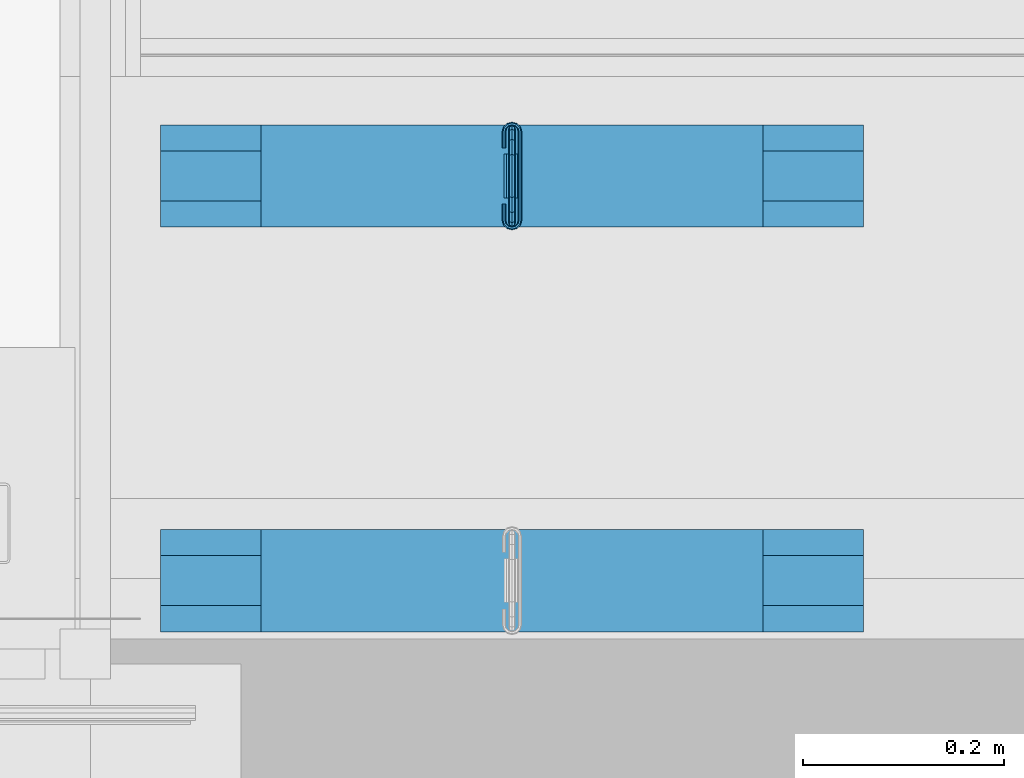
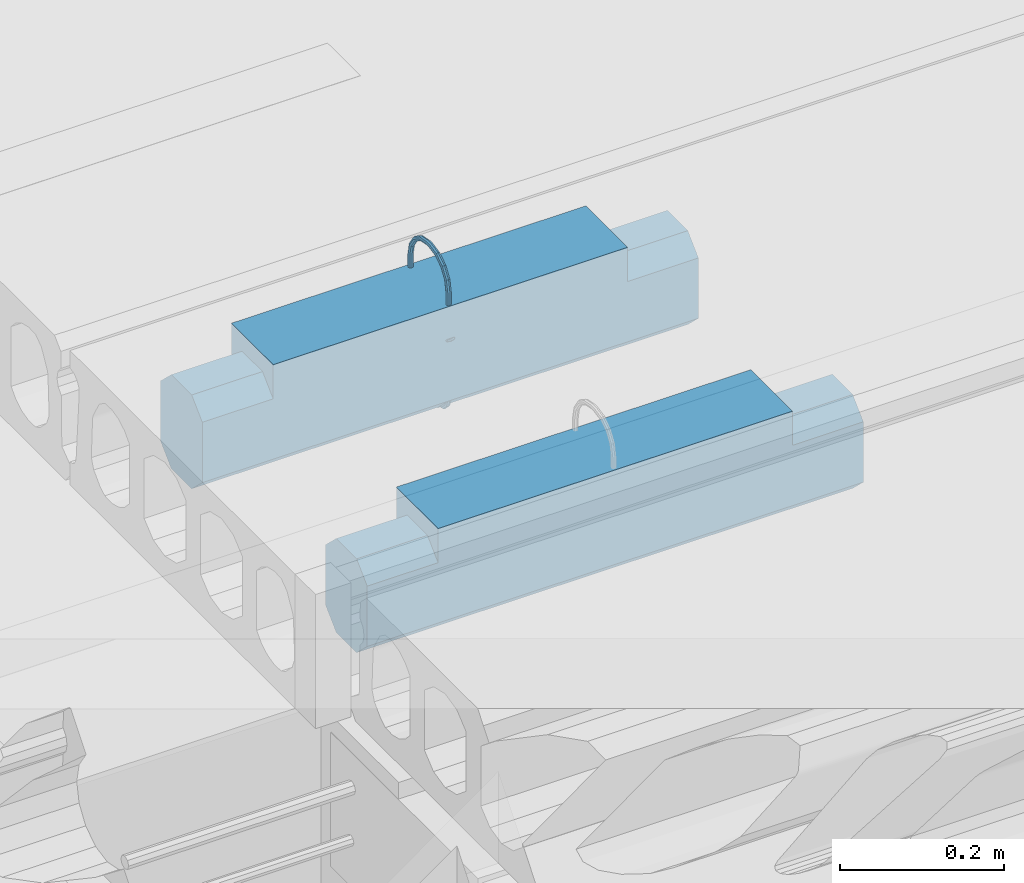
# One storey, part 176 of 230: 3 beams.
"""IFC4X3_ADD2 building model written with IfcOpenShell, lengths in millimetres."""

from ifc_helpers import new_model, si_unit, direction, origin_with_axes, place, context, subcontext, project, spatial, triangles, polygons, element, save


model = new_model("IFC4X3_ADD2")

# Units and contexts
model_context = context("Model", 3, precision=1e-05, world=origin_with_axes(), true_north=direction((0.0, 1.0)))
body_context = subcontext(model_context, "Body", "Model", "MODEL_VIEW")
ifc_project = project(units=[si_unit("LENGTHUNIT", "METRE", prefix="MILLI"), si_unit("AREAUNIT", "SQUARE_METRE"), si_unit("VOLUMEUNIT", "CUBIC_METRE"), si_unit("PLANEANGLEUNIT", "RADIAN"), si_unit("TIMEUNIT", "SECOND"), si_unit("MASSUNIT", "GRAM")], contexts=[model_context])

# Site, building, storey
site_placement = place(None, origin_with_axes())
site = spatial("IfcSite", under=ifc_project, at=site_placement, Name="Site", CompositionType="ELEMENT")
building_placement = place(site_placement, origin_with_axes())
building = spatial("IfcBuilding", under=site, at=building_placement, Name="IFC Building Story")
storey_placement = place(building_placement, origin_with_axes())
storey = spatial("IfcBuildingStorey", under=building, at=storey_placement, Name="ETAGE 00 (0)", Elevation=0.0)

# Beams
beam_1_placement = place(storey_placement, origin_with_axes())
element("IfcBeam", 1, at=beam_1_placement, inside=storey, Name="ES44", ObjectType="500*102", context=body_context, shape_type="Tessellation", body=[
    polygons([(40331.189, 912.000018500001, 4199.9999879), (40331.189, 810.000018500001, 4199.9999879), (40831.189, 810.000018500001, 4199.9999879), (40831.189, 912.000018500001, 4199.9999879), (40331.189, 912.000018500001, 4148.999990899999), (40331.189, 886.0000185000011, 4173.9999909), (40331.189, 836.000018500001, 4173.9999909), (40331.189, 810.000018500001, 4148.9999909), (40231.189, 810.000018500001, 4148.9999909), (40231.189, 810.000018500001, 4058.999990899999), (40931.189, 810.000018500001, 4058.999990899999), (40931.189, 810.000018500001, 4148.9999909), (40831.189, 810.000018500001, 4148.9999909), (40831.189, 836.000018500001, 4173.9999909), (40831.189, 886.0000185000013, 4173.9999909), (40831.189, 912.000018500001, 4148.999990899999), (40931.189, 912.000018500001, 4148.9999909), (40931.189, 912.000018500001, 4058.999990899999), (40231.189, 912.000018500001, 4058.999990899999), (40231.189, 912.000018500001, 4148.9999909), (40231.189, 886.0000185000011, 4033.9999909), (40231.189, 836.000018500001, 4033.9999909), (40231.189, 836.000018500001, 4173.9999909), (40231.189, 886.0000185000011, 4173.9999909), (40931.189, 886.0000185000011, 4033.9999909), (40931.189, 886.0000185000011, 4173.9999909), (40931.189, 836.000018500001, 4173.9999909), (40931.189, 836.000018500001, 4033.9999909)], [[[1, 2, 3, 4]], [[7, 8, 2]], [[2, 1, 6]], [[2, 6, 7]], [[1, 5, 6]], [[8, 9, 10]], [[13, 3, 2]], [[8, 10, 11]], [[8, 11, 13]], [[13, 2, 8]], [[11, 12, 13]], [[15, 16, 4]], [[4, 3, 14]], [[4, 14, 15]], [[3, 13, 14]], [[16, 17, 18]], [[5, 1, 4]], [[16, 18, 19]], [[16, 19, 5]], [[5, 4, 16]], [[19, 20, 5]], [[21, 22, 10]], [[21, 10, 9]], [[21, 9, 23]], [[21, 23, 24]], [[21, 24, 20]], [[21, 20, 19]], [[25, 18, 17]], [[25, 17, 26]], [[25, 26, 27]], [[25, 27, 12]], [[25, 12, 11]], [[25, 11, 28]], [[22, 21, 25, 28]], [[10, 22, 28, 11]], [[23, 9, 8, 7]], [[24, 23, 7, 6]], [[20, 24, 6, 5]], [[21, 19, 18, 25]], [[26, 17, 16, 15]], [[12, 27, 14, 13]], [[27, 26, 15, 14]]]),
])
beam_2_placement = place(storey_placement, origin_with_axes())
element("IfcBeam", 2, at=beam_2_placement, inside=storey, Name="LU2", ObjectType="D7", context=body_context, shape_type="Tessellation", body=[
    triangles([(40583.66235351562, 886.5000314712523, 4036.025157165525), (40583.66235351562, 883.0000270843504, 4036.025157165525), (40581.1880859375, 886.5000314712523, 4034.999929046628), (40581.1880859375, 883.0000270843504, 4034.999929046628), (40584.69019775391, 886.5000314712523, 4038.500006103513), (40584.69019775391, 883.0000270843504, 4038.500006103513), (40583.66235351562, 883.0000270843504, 4040.974855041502), (40583.66235351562, 886.5000314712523, 4040.974855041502), (40581.1880859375, 883.0000270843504, 4042.000083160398), (40581.1880859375, 886.5000314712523, 4042.000083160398), (40578.71381835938, 883.0000270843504, 4040.974855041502), (40578.71381835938, 886.5000314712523, 4040.974855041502), (40577.690625, 883.0000270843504, 4038.500006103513), (40577.690625, 886.5000314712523, 4038.500006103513), (40578.71381835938, 886.5000314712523, 4036.025157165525), (40578.71381835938, 883.0000270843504, 4036.025157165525), (40581.1880859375, 898.7500104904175, 4038.282286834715), (40578.71381835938, 898.2374691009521, 4039.170023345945), (40581.1880859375, 907.7176317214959, 4047.250053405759), (40578.71381835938, 906.829822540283, 4047.762522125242), (40583.66235351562, 906.829822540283, 4047.762522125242), (40583.66235351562, 898.2374691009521, 4039.170023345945), (40584.69019775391, 904.6865667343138, 4048.999946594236), (40584.69019775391, 897.0000446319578, 4041.313497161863), (40583.66235351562, 895.7625474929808, 4043.456680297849), (40583.66235351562, 902.5432382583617, 4050.237371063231), (40581.1880859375, 895.2500061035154, 4044.34441680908), (40581.1880859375, 901.6554290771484, 4050.750130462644), (40578.71381835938, 902.5432382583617, 4050.237371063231), (40578.71381835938, 895.7625474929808, 4043.456680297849), (40577.690625, 904.6865667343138, 4048.999946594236), (40577.690625, 897.0000446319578, 4041.313497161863), (40578.71381835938, 909.9749067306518, 4059.499887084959), (40577.690625, 907.499985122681, 4059.499887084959), (40581.1880859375, 910.999989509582, 4059.499887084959), (40583.66235351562, 909.9749067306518, 4059.499887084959), (40584.69019775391, 907.499985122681, 4059.499887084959), (40583.66235351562, 905.0251361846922, 4059.499887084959), (40581.1880859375, 904.0000534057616, 4059.499887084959), (40578.71381835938, 905.0251361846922, 4059.499887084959), (40578.71381835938, 905.0251361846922, 4218.50006561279), (40577.690625, 907.499985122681, 4218.50006561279), (40578.71381835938, 901.940368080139, 4234.008421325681), (40577.690625, 904.2268564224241, 4234.955456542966), (40578.71381835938, 893.1555845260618, 4247.155583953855), (40577.690625, 894.9056230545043, 4248.905477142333), (40578.71381835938, 896.6555889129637, 4250.65566101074), (40578.71381835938, 906.5133447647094, 4235.902491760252), (40581.1880859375, 897.3804719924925, 4251.38032608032), (40581.1880859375, 907.460452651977, 4236.294909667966), (40583.66235351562, 896.6555889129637, 4250.65566101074), (40583.66235351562, 906.5133447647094, 4235.902491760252), (40584.69019775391, 894.9056230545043, 4248.905477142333), (40584.69019775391, 904.2268564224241, 4234.955456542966), (40583.66235351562, 901.940368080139, 4234.008421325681), (40583.66235351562, 893.1555845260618, 4247.155583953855), (40581.1880859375, 900.9932601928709, 4233.616003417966), (40581.1880859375, 892.430701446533, 4246.430628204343), (40581.1880859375, 879.6160039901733, 4254.993186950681), (40578.71381835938, 880.0083492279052, 4255.940222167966), (40577.690625, 880.9553844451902, 4258.226710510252), (40578.71381835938, 881.9024923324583, 4260.513198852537), (40581.1880859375, 882.2947649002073, 4261.460524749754), (40583.66235351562, 881.9024923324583, 4260.513198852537), (40584.69019775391, 880.9553844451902, 4258.226710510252), (40583.66235351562, 880.0083492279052, 4255.940222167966), (40583.66235351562, 864.4999935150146, 4259.025208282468), (40581.1880859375, 864.4999935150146, 4257.999980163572), (40578.71381835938, 864.4999935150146, 4259.025208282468), (40577.690625, 864.4999935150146, 4261.500057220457), (40578.71381835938, 864.4999935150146, 4263.974906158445), (40581.1880859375, 864.4999935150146, 4265.000134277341), (40583.66235351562, 864.4999935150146, 4263.974906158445), (40584.69019775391, 864.4999935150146, 4261.500057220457), (40584.69019775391, 857.4999847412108, 4261.500057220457), (40583.66235351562, 857.4999847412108, 4259.025208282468), (40584.69019775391, 841.0446664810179, 4258.226710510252), (40583.66235351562, 841.9917016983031, 4255.940222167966), (40584.69019775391, 827.0944278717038, 4248.905477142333), (40583.66235351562, 828.8443937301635, 4247.155583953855), (40581.1880859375, 842.384046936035, 4254.993186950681), (40581.1880859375, 829.5692768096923, 4246.430628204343), (40578.71381835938, 828.8443937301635, 4247.155583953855), (40578.71381835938, 841.9917016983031, 4255.940222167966), (40577.690625, 827.0944278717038, 4248.905477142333), (40577.690625, 841.0446664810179, 4258.226710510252), (40578.71381835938, 825.3444620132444, 4250.65566101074), (40578.71381835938, 840.0975585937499, 4260.513198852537), (40581.1880859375, 824.6195789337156, 4251.38032608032), (40581.1880859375, 839.7052133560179, 4261.460524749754), (40583.66235351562, 825.3444620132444, 4250.65566101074), (40583.66235351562, 840.0975585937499, 4260.513198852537), (40584.69019775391, 817.773194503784, 4234.955456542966), (40583.66235351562, 815.4867061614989, 4235.902491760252), (40583.66235351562, 820.0596828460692, 4234.008421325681), (40581.1880859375, 821.0067907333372, 4233.616003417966), (40578.71381835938, 820.0596828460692, 4234.008421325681), (40577.690625, 817.773194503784, 4234.955456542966), (40578.71381835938, 815.4867061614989, 4235.902491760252), (40581.1880859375, 814.5395982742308, 4236.294909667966), (40583.66235351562, 812.0251441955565, 4218.50006561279), (40581.1880859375, 810.9999887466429, 4218.50006561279), (40584.69019775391, 814.4999931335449, 4218.50006561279), (40583.66235351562, 816.974914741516, 4218.50006561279), (40581.1880859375, 817.9999975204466, 4218.50006561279), (40578.71381835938, 816.974914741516, 4218.50006561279), (40577.690625, 814.4999931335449, 4218.50006561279), (40578.71381835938, 812.0251441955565, 4218.50006561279), (40581.1880859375, 810.9999887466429, 4059.499887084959), (40578.71381835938, 812.0251441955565, 4059.499887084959), (40581.1880859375, 814.2824192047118, 4047.250053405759), (40578.71381835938, 815.1701557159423, 4047.762522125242), (40581.1880859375, 823.2500404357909, 4038.282286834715), (40578.71381835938, 823.7625818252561, 4039.170023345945), (40583.66235351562, 823.7625818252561, 4039.170023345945), (40583.66235351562, 815.1701557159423, 4047.762522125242), (40584.69019775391, 825.0000062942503, 4041.313497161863), (40584.69019775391, 817.3134841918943, 4048.999946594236), (40583.66235351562, 819.4568126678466, 4050.237371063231), (40583.66235351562, 826.2374307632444, 4043.456680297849), (40581.1880859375, 820.3445491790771, 4050.750130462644), (40581.1880859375, 826.7500448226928, 4044.34441680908), (40578.71381835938, 826.2374307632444, 4043.456680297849), (40578.71381835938, 819.4568126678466, 4050.237371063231), (40577.690625, 825.0000062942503, 4041.313497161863), (40577.690625, 817.3134841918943, 4048.999946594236), (40578.71381835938, 835.5000194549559, 4036.025157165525), (40577.690625, 835.5000194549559, 4038.500006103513), (40581.1880859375, 835.5000194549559, 4034.999929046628), (40583.66235351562, 835.5000194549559, 4036.025157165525), (40584.69019775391, 835.5000194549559, 4038.500006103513), (40583.66235351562, 835.5000194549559, 4040.974855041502), (40581.1880859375, 835.5000194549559, 4042.000083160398), (40578.71381835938, 835.5000194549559, 4040.974855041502), (40578.71381835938, 839.0000238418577, 4040.974855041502), (40577.690625, 839.0000238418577, 4038.500006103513), (40581.1880859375, 839.0000238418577, 4042.000083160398), (40583.66235351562, 839.0000238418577, 4040.974855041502), (40584.69019775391, 839.0000238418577, 4038.500006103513), (40583.66235351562, 839.0000238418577, 4036.025157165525), (40581.1880859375, 839.0000238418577, 4034.999929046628), (40578.71381835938, 839.0000238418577, 4036.025157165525), (40589.18759765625, 839.0000238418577, 4038.500006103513), (40581.1880859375, 839.0000238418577, 4046.500099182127), (40575.5326171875, 839.0000238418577, 4044.156928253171), (40573.18857421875, 839.0000238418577, 4038.500006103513), (40586.8435546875, 839.0000238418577, 4044.156928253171), (40575.5326171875, 839.0000238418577, 4032.843083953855), (40581.1880859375, 839.0000238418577, 4030.4999130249), (40586.8435546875, 839.0000238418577, 4032.843083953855), (40586.8435546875, 883.0000270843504, 4032.843083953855), (40581.1880859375, 883.0000270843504, 4030.4999130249), (40589.18759765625, 883.0000270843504, 4038.500006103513), (40586.8435546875, 883.0000270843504, 4044.156928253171), (40581.1880859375, 883.0000270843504, 4046.500099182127), (40575.5326171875, 883.0000270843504, 4044.156928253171), (40573.18857421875, 883.0000270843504, 4038.500006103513), (40575.5326171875, 883.0000270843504, 4032.843083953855), (40577.690625, 814.4999931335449, 4059.499887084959), (40578.71381835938, 816.974914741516, 4059.499887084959), (40581.1880859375, 817.9999975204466, 4059.499887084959), (40583.66235351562, 816.974914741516, 4059.499887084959), (40584.69019775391, 814.4999931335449, 4059.499887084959), (40583.66235351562, 812.0251441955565, 4059.499887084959), (40583.66235351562, 857.4999847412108, 4263.974906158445), (40581.1880859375, 857.4999847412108, 4265.000134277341), (40578.71381835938, 857.4999847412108, 4263.974906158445), (40577.690625, 857.4999847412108, 4261.500057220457), (40578.71381835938, 857.4999847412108, 4259.025208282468), (40581.1880859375, 857.4999847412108, 4257.999980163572), (40581.1880859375, 904.0000534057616, 4218.50006561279), (40583.66235351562, 905.0251361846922, 4218.50006561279), (40584.69019775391, 907.499985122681, 4218.50006561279), (40583.66235351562, 909.9749067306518, 4218.50006561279), (40581.1880859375, 910.999989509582, 4218.50006561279), (40578.71381835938, 909.9749067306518, 4218.50006561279), (40575.0907836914, 905.0600177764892, 4149.999886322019), (40575.0907836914, 889.0000242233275, 4149.999886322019), (40574.13735351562, 905.0600177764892, 4148.354637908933), (40574.13735351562, 889.0000242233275, 4148.354637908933), (40575.88608398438, 908.0300399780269, 4149.999886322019), (40575.06287841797, 908.5050109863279, 4148.354637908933), (40577.58365478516, 911.026950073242, 4148.354637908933), (40578.05804443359, 910.2041805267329, 4149.999886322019), (40577.58365478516, 911.026950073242, 4151.645425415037), (40575.06287841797, 908.5050109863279, 4151.645425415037), (40581.02995605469, 911.9500041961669, 4151.645425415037), (40581.02995605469, 913.8500335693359, 4151.645425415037), (40576.63487548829, 912.6724164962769, 4151.645425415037), (40572.23979492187, 816.940033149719, 4151.645425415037), (40575.06287841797, 813.4950399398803, 4151.645425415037), (40574.13735351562, 816.940033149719, 4151.645425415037), (40572.23979492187, 833.0000267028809, 4151.645425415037), (40573.41646728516, 812.5450252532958, 4151.645425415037), (40574.13735351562, 833.0000267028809, 4151.645425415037), (40576.63487548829, 809.3276344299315, 4151.645425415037), (40581.02995605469, 810.0500467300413, 4151.645425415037), (40577.58365478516, 810.9731008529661, 4151.645425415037), (40581.02995605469, 808.1500173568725, 4151.645425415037), (40572.23979492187, 905.0600177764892, 4151.645425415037), (40573.41646728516, 909.455025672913, 4151.645425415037), (40572.23979492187, 889.0000242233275, 4151.645425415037), (40574.13735351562, 905.0600177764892, 4151.645425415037), (40574.13735351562, 889.0000242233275, 4151.645425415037), (40584.79251708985, 810.9731008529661, 4151.645425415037), (40585.74594726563, 809.3276344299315, 4151.645425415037), (40588.95970458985, 812.5450252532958, 4151.645425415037), (40581.35086669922, 808.1500173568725, 4151.645425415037), (40581.35086669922, 810.0500467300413, 4151.645425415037), (40587.31794433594, 813.4950399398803, 4151.645425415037), (40590.14102783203, 816.940033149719, 4151.645425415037), (40588.23881835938, 816.940033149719, 4151.645425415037), (40588.23881835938, 905.0600177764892, 4151.645425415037), (40585.74594726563, 912.6724164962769, 4151.645425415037), (40584.79251708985, 911.026950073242, 4151.645425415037), (40588.95970458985, 909.455025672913, 4151.645425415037), (40581.35086669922, 913.8500335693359, 4151.645425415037), (40581.35086669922, 911.9500041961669, 4151.645425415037), (40590.14102783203, 905.0600177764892, 4151.645425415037), (40587.31794433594, 908.5050109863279, 4151.645425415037), (40572.23979492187, 833.0000267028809, 4148.354637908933), (40574.13735351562, 833.0000267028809, 4148.354637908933), (40575.0907836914, 833.0000267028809, 4149.999886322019), (40571.291015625, 833.0000267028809, 4149.999886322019), (40575.0907836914, 816.940033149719, 4149.999886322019), (40574.13735351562, 816.940033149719, 4148.354637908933), (40576.63487548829, 809.3276344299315, 4148.354637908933), (40581.02995605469, 810.0500467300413, 4148.354637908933), (40581.02995605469, 808.1500173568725, 4148.354637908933), (40572.23979492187, 905.0600177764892, 4148.354637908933), (40572.23979492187, 889.0000242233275, 4148.354637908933), (40573.41646728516, 909.455025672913, 4148.354637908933), (40576.63487548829, 912.6724164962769, 4148.354637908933), (40581.02995605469, 911.9500041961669, 4148.354637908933), (40581.02995605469, 913.8500335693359, 4148.354637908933), (40572.23979492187, 816.940033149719, 4148.354637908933), (40575.06287841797, 813.4950399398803, 4148.354637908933), (40573.41646728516, 812.5450252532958, 4148.354637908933), (40577.58365478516, 810.9731008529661, 4148.354637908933), (40584.79251708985, 911.026950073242, 4148.354637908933), (40585.74594726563, 912.6724164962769, 4148.354637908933), (40588.95970458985, 909.455025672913, 4148.354637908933), (40581.35086669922, 913.8500335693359, 4148.354637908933), (40581.35086669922, 911.9500041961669, 4148.354637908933), (40587.31794433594, 908.5050109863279, 4148.354637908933), (40590.14102783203, 905.0600177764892, 4148.354637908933), (40588.23881835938, 905.0600177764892, 4148.354637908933), (40588.23881835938, 816.940033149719, 4148.354637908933), (40585.74594726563, 809.3276344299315, 4148.354637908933), (40584.79251708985, 810.9731008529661, 4148.354637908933), (40588.95970458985, 812.5450252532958, 4148.354637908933), (40581.35086669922, 808.1500173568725, 4148.354637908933), (40581.35086669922, 810.0500467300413, 4148.354637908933), (40590.14102783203, 816.940033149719, 4148.354637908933), (40587.31794433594, 813.4950399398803, 4148.354637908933), (40571.291015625, 816.940033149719, 4149.999886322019), (40572.59326171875, 812.069981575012, 4149.999886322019), (40576.16048583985, 808.5049375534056, 4149.999886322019), (40581.02995605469, 807.200002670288, 4149.999886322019), (40581.35086669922, 807.200002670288, 4149.999886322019), (40586.22033691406, 808.5049375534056, 4149.999886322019), (40589.78291015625, 812.069981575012, 4149.999886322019), (40591.08980712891, 816.940033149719, 4149.999886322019), (40591.08980712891, 905.0600177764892, 4149.999886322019), (40589.78291015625, 909.929996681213, 4149.999886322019), (40586.22033691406, 913.495113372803, 4149.999886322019), (40581.35086669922, 914.8000482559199, 4149.999886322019), (40581.02995605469, 914.8000482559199, 4149.999886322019), (40576.16048583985, 913.495113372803, 4149.999886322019), (40572.59326171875, 909.929996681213, 4149.999886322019), (40571.291015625, 905.0600177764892, 4149.999886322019), (40571.291015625, 889.0000242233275, 4149.999886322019), (40581.02995605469, 910.999989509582, 4149.999886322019), (40581.35086669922, 910.999989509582, 4149.999886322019), (40584.31812744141, 910.2041805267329, 4149.999886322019), (40586.49473876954, 908.0300399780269, 4149.999886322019), (40587.2900390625, 905.0600177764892, 4149.999886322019), (40587.2900390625, 816.940033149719, 4149.999886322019), (40586.49473876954, 813.9700109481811, 4149.999886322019), (40584.31812744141, 811.795797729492, 4149.999886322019), (40581.35086669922, 810.9999887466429, 4149.999886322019), (40581.02995605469, 810.9999887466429, 4149.999886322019), (40578.05804443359, 811.795797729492, 4149.999886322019), (40575.88608398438, 813.9700109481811, 4149.999886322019)], [[1, 2, 3], [4, 3, 2], [5, 6, 1], [2, 1, 6], [6, 5, 7], [8, 7, 5], [7, 8, 9], [10, 9, 8], [9, 10, 11], [12, 11, 10], [11, 12, 13], [14, 13, 12], [15, 16, 14], [13, 14, 16], [3, 4, 15], [16, 15, 4], [17, 3, 18], [15, 18, 3], [19, 17, 20], [18, 20, 17], [21, 22, 17], [17, 19, 21], [23, 24, 22], [22, 21, 23], [24, 23, 25], [26, 25, 23], [25, 26, 27], [28, 27, 26], [27, 28, 29], [29, 30, 27], [30, 29, 31], [31, 32, 30], [20, 18, 31], [32, 31, 18], [33, 20, 34], [31, 34, 20], [35, 19, 33], [20, 33, 19], [36, 21, 19], [19, 35, 36], [37, 23, 21], [21, 36, 37], [23, 37, 26], [38, 26, 37], [26, 38, 28], [39, 28, 38], [28, 39, 40], [40, 29, 28], [29, 40, 34], [34, 31, 29], [40, 41, 42], [42, 34, 40], [41, 43, 44], [44, 42, 41], [43, 45, 46], [46, 44, 43], [47, 48, 46], [44, 46, 48], [49, 50, 47], [48, 47, 50], [51, 52, 50], [50, 49, 51], [53, 54, 52], [52, 51, 53], [54, 53, 55], [56, 55, 53], [55, 56, 57], [58, 57, 56], [57, 58, 45], [45, 43, 57], [58, 59, 60], [60, 45, 58], [45, 60, 61], [61, 46, 45], [62, 47, 61], [46, 61, 47], [63, 49, 62], [47, 62, 49], [64, 51, 49], [49, 63, 64], [65, 53, 51], [51, 64, 65], [53, 65, 56], [66, 56, 65], [56, 66, 58], [59, 58, 66], [66, 67, 59], [68, 59, 67], [59, 68, 69], [69, 60, 59], [60, 69, 70], [70, 61, 60], [71, 62, 70], [61, 70, 62], [72, 63, 71], [62, 71, 63], [73, 64, 63], [63, 72, 73], [74, 65, 64], [64, 73, 74], [65, 74, 66], [67, 66, 74], [74, 75, 67], [76, 67, 75], [75, 77, 76], [78, 76, 77], [77, 79, 78], [80, 78, 79], [78, 80, 81], [82, 81, 80], [81, 82, 83], [83, 84, 81], [84, 83, 85], [85, 86, 84], [87, 88, 85], [86, 85, 88], [89, 90, 87], [88, 87, 90], [91, 92, 90], [90, 89, 91], [79, 77, 92], [92, 91, 79], [93, 79, 91], [91, 94, 93], [79, 93, 80], [95, 80, 93], [80, 95, 82], [96, 82, 95], [82, 96, 97], [97, 83, 82], [83, 97, 98], [98, 85, 83], [99, 87, 98], [85, 98, 87], [100, 89, 99], [87, 99, 89], [94, 91, 89], [89, 100, 94], [101, 94, 100], [100, 102, 101], [103, 93, 94], [94, 101, 103], [93, 103, 95], [104, 95, 103], [95, 104, 96], [105, 96, 104], [96, 105, 106], [106, 97, 96], [97, 106, 107], [107, 98, 97], [108, 99, 107], [98, 107, 99], [102, 100, 108], [99, 108, 100], [109, 102, 110], [108, 110, 102], [111, 109, 112], [110, 112, 109], [113, 111, 114], [112, 114, 111], [115, 116, 111], [111, 113, 115], [117, 118, 116], [116, 115, 117], [118, 117, 119], [120, 119, 117], [119, 120, 121], [122, 121, 120], [121, 122, 123], [123, 124, 121], [124, 123, 125], [125, 126, 124], [114, 112, 125], [126, 125, 112], [127, 114, 128], [125, 128, 114], [129, 113, 127], [114, 127, 113], [130, 115, 113], [113, 129, 130], [131, 117, 115], [115, 130, 131], [117, 131, 120], [132, 120, 131], [120, 132, 122], [133, 122, 132], [122, 133, 134], [134, 123, 122], [123, 134, 128], [128, 125, 123], [134, 135, 136], [136, 128, 134], [133, 137, 134], [135, 134, 137], [132, 138, 137], [137, 133, 132], [131, 139, 132], [138, 132, 139], [139, 131, 130], [130, 140, 139], [140, 130, 141], [129, 141, 130], [141, 129, 127], [127, 142, 141], [142, 127, 136], [128, 136, 127], [138, 139, 143], [135, 137, 144], [144, 145, 135], [146, 136, 135], [146, 135, 145], [147, 137, 138], [137, 147, 144], [138, 143, 147], [148, 136, 146], [142, 149, 141], [142, 136, 148], [148, 149, 142], [150, 143, 139], [139, 140, 150], [141, 150, 140], [150, 141, 149], [151, 150, 152], [149, 152, 150], [153, 143, 151], [150, 151, 143], [143, 153, 147], [154, 147, 153], [147, 154, 144], [155, 144, 154], [144, 155, 145], [156, 145, 155], [145, 156, 146], [157, 146, 156], [158, 148, 157], [146, 157, 148], [152, 149, 158], [148, 158, 149], [11, 13, 157], [7, 9, 155], [155, 154, 7], [153, 6, 7], [153, 7, 154], [156, 9, 11], [9, 156, 155], [11, 157, 156], [151, 6, 153], [2, 152, 4], [2, 6, 151], [151, 152, 2], [158, 157, 13], [13, 16, 158], [4, 158, 16], [158, 4, 152], [112, 110, 126], [159, 126, 110], [160, 124, 126], [126, 159, 160], [161, 121, 124], [124, 160, 161], [162, 119, 161], [121, 161, 119], [163, 118, 162], [119, 162, 118], [118, 163, 164], [164, 116, 118], [116, 164, 109], [109, 111, 116], [164, 101, 102], [102, 109, 164], [163, 103, 164], [101, 164, 103], [103, 163, 104], [162, 104, 163], [104, 162, 105], [161, 105, 162], [105, 161, 160], [160, 106, 105], [106, 160, 159], [159, 107, 106], [110, 108, 107], [107, 159, 110], [77, 75, 165], [165, 92, 77], [92, 165, 166], [166, 90, 92], [90, 166, 88], [167, 88, 166], [88, 167, 86], [168, 86, 167], [169, 84, 86], [86, 168, 169], [170, 81, 84], [84, 169, 170], [76, 78, 170], [81, 170, 78], [67, 76, 68], [170, 68, 76], [68, 170, 169], [169, 69, 68], [69, 169, 168], [168, 70, 69], [167, 71, 70], [70, 168, 167], [166, 72, 71], [71, 167, 166], [165, 73, 166], [72, 166, 73], [75, 74, 165], [73, 165, 74], [171, 57, 43], [43, 41, 171], [172, 55, 171], [57, 171, 55], [173, 54, 172], [55, 172, 54], [54, 173, 174], [174, 52, 54], [52, 174, 175], [175, 50, 52], [50, 175, 48], [176, 48, 175], [48, 176, 44], [42, 44, 176], [176, 33, 34], [34, 42, 176], [175, 35, 176], [33, 176, 35], [174, 36, 35], [35, 175, 174], [173, 37, 174], [36, 174, 37], [37, 173, 38], [172, 38, 173], [38, 172, 39], [171, 39, 172], [39, 171, 41], [41, 40, 39], [18, 15, 32], [14, 32, 15], [12, 30, 32], [32, 14, 12], [10, 27, 30], [30, 12, 10], [8, 25, 10], [27, 10, 25], [5, 24, 8], [25, 8, 24], [24, 5, 1], [1, 22, 24], [22, 1, 3], [3, 17, 22], [177, 178, 179], [180, 179, 178], [181, 177, 179], [179, 182, 181], [183, 184, 181], [181, 182, 183], [184, 185, 181], [186, 181, 185], [187, 188, 189], [190, 191, 192], [190, 192, 193], [190, 194, 191], [195, 193, 192], [196, 197, 198], [198, 191, 194], [199, 197, 196], [196, 198, 194], [200, 186, 201], [202, 203, 200], [204, 203, 202], [200, 203, 186], [185, 189, 201], [201, 186, 185], [189, 185, 187], [205, 206, 207], [197, 199, 208], [208, 209, 197], [209, 206, 205], [206, 209, 208], [210, 207, 211], [207, 210, 205], [212, 211, 213], [211, 212, 210], [214, 215, 216], [217, 188, 187], [187, 218, 217], [218, 215, 214], [214, 217, 218], [213, 219, 220], [219, 213, 211], [220, 216, 215], [216, 220, 219], [195, 221, 193], [222, 195, 223], [193, 221, 224], [195, 222, 221], [223, 225, 226], [226, 222, 223], [227, 228, 229], [230, 182, 179], [230, 179, 231], [230, 232, 182], [180, 231, 179], [233, 234, 183], [183, 182, 232], [235, 234, 233], [233, 183, 232], [236, 237, 238], [221, 226, 236], [222, 226, 221], [236, 226, 237], [239, 227, 238], [238, 237, 239], [227, 239, 228], [240, 241, 242], [243, 234, 235], [243, 244, 234], [244, 243, 241], [240, 244, 241], [245, 242, 246], [242, 245, 240], [247, 246, 248], [246, 247, 245], [249, 250, 251], [252, 229, 228], [228, 253, 252], [253, 250, 249], [249, 252, 253], [248, 254, 255], [254, 248, 246], [255, 251, 250], [251, 255, 254], [221, 236, 256], [256, 224, 221], [190, 193, 256], [224, 256, 193], [257, 194, 256], [190, 256, 194], [238, 257, 256], [256, 236, 238], [227, 258, 238], [257, 238, 258], [258, 196, 194], [194, 257, 258], [259, 199, 196], [196, 258, 259], [260, 208, 259], [199, 259, 208], [261, 206, 260], [208, 260, 206], [249, 261, 260], [260, 252, 249], [252, 260, 259], [259, 229, 252], [229, 259, 227], [258, 227, 259], [251, 262, 261], [261, 249, 251], [262, 207, 261], [206, 261, 207], [263, 211, 207], [207, 262, 263], [263, 264, 211], [219, 211, 264], [219, 264, 216], [265, 216, 264], [264, 246, 242], [242, 265, 264], [264, 263, 254], [254, 246, 264], [254, 263, 251], [262, 251, 263], [265, 242, 266], [241, 266, 242], [216, 265, 266], [266, 214, 216], [214, 266, 267], [267, 217, 214], [217, 267, 268], [268, 188, 217], [188, 268, 189], [269, 189, 268], [268, 235, 233], [233, 269, 268], [267, 243, 268], [235, 268, 243], [266, 241, 267], [243, 267, 241], [269, 233, 232], [232, 270, 269], [189, 269, 201], [270, 201, 269], [201, 270, 271], [271, 200, 201], [202, 200, 272], [271, 272, 200], [202, 180, 204], [231, 202, 272], [204, 180, 178], [202, 231, 180], [230, 231, 271], [272, 271, 231], [270, 232, 271], [230, 271, 232], [178, 177, 203], [203, 204, 178], [177, 181, 203], [186, 203, 181], [234, 273, 184], [184, 183, 234], [273, 187, 184], [185, 184, 187], [274, 218, 273], [187, 273, 218], [275, 215, 218], [218, 274, 275], [276, 220, 215], [215, 275, 276], [213, 220, 276], [276, 277, 213], [212, 213, 277], [277, 278, 212], [210, 212, 279], [278, 279, 212], [210, 279, 205], [280, 205, 279], [205, 280, 209], [281, 209, 280], [209, 281, 197], [282, 197, 281], [197, 282, 283], [283, 198, 197], [198, 283, 284], [284, 191, 198], [284, 225, 192], [192, 191, 284], [225, 223, 192], [195, 192, 223], [225, 284, 226], [237, 226, 284], [283, 239, 284], [237, 284, 239], [282, 228, 283], [239, 283, 228], [281, 253, 228], [228, 282, 281], [280, 250, 253], [253, 281, 280], [279, 255, 250], [250, 280, 279], [248, 255, 279], [279, 278, 248], [247, 248, 277], [278, 277, 248], [245, 247, 276], [277, 276, 247], [245, 276, 240], [275, 240, 276], [240, 275, 244], [274, 244, 275], [244, 274, 273], [273, 234, 244]]),
])
beam_3_placement = place(storey_placement, origin_with_axes())
element("IfcBeam", 3, at=beam_3_placement, inside=storey, Name="ES44", ObjectType="500*102", context=body_context, shape_type="Tessellation", body=[
    polygons([(40331.189, 509.0000185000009, 4199.9999879), (40331.189, 407.000018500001, 4199.9999879), (40831.189, 407.000018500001, 4199.9999879), (40831.189, 509.0000185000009, 4199.9999879), (40331.189, 509.0000185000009, 4148.9999909), (40331.189, 483.000018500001, 4173.9999909), (40331.189, 433.0000185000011, 4173.9999909), (40331.189, 407.000018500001, 4148.9999909), (40231.189, 407.000018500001, 4148.9999909), (40231.189, 407.000018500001, 4058.999990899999), (40931.189, 407.000018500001, 4058.999990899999), (40931.189, 407.000018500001, 4148.9999909), (40831.189, 407.000018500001, 4148.9999909), (40831.189, 433.000018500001, 4173.9999909), (40831.189, 483.0000185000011, 4173.9999909), (40831.189, 509.0000185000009, 4148.9999909), (40931.189, 509.0000185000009, 4148.9999909), (40931.189, 509.0000185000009, 4058.999990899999), (40231.189, 509.0000185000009, 4058.999990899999), (40231.189, 509.0000185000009, 4148.9999909), (40231.189, 483.000018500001, 4033.9999909), (40231.189, 433.000018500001, 4033.9999909), (40231.189, 433.000018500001, 4173.9999909), (40231.189, 483.000018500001, 4173.9999909), (40931.189, 483.000018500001, 4033.9999909), (40931.189, 483.000018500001, 4173.9999909), (40931.189, 433.000018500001, 4173.9999909), (40931.189, 433.000018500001, 4033.9999909)], [[[1, 2, 3, 4]], [[7, 8, 2]], [[2, 1, 6]], [[2, 6, 7]], [[1, 5, 6]], [[8, 9, 10]], [[13, 3, 2]], [[8, 10, 11]], [[8, 11, 13]], [[13, 2, 8]], [[11, 12, 13]], [[15, 16, 4]], [[4, 3, 14]], [[4, 14, 15]], [[3, 13, 14]], [[16, 17, 18]], [[5, 1, 4]], [[16, 18, 19]], [[16, 19, 5]], [[5, 4, 16]], [[19, 20, 5]], [[21, 22, 10]], [[21, 10, 9]], [[21, 9, 23]], [[21, 23, 24]], [[21, 24, 20]], [[21, 20, 19]], [[25, 18, 17]], [[25, 17, 26]], [[25, 26, 27]], [[25, 27, 12]], [[25, 12, 11]], [[25, 11, 28]], [[22, 21, 25, 28]], [[10, 22, 28, 11]], [[23, 9, 8, 7]], [[24, 23, 7, 6]], [[20, 24, 6, 5]], [[21, 19, 18, 25]], [[26, 17, 16, 15]], [[12, 27, 14, 13]], [[27, 26, 15, 14]]]),
])

save(model, "model.ifc")
